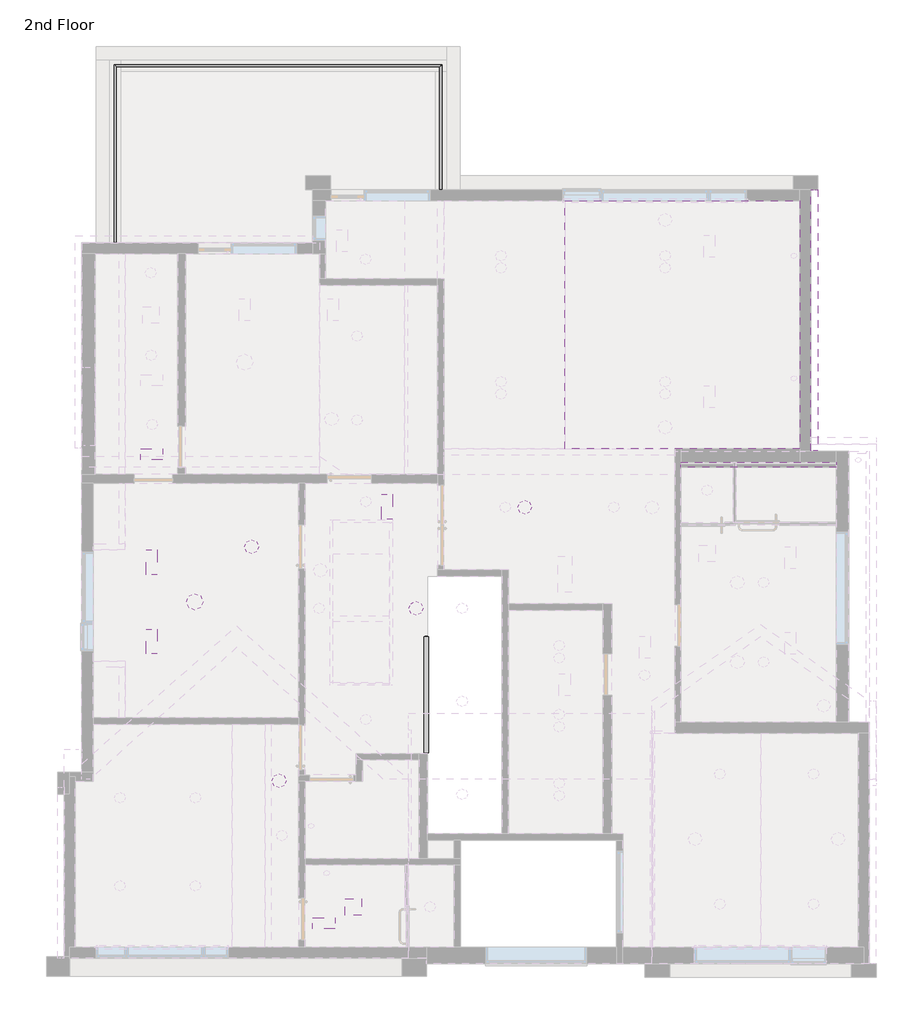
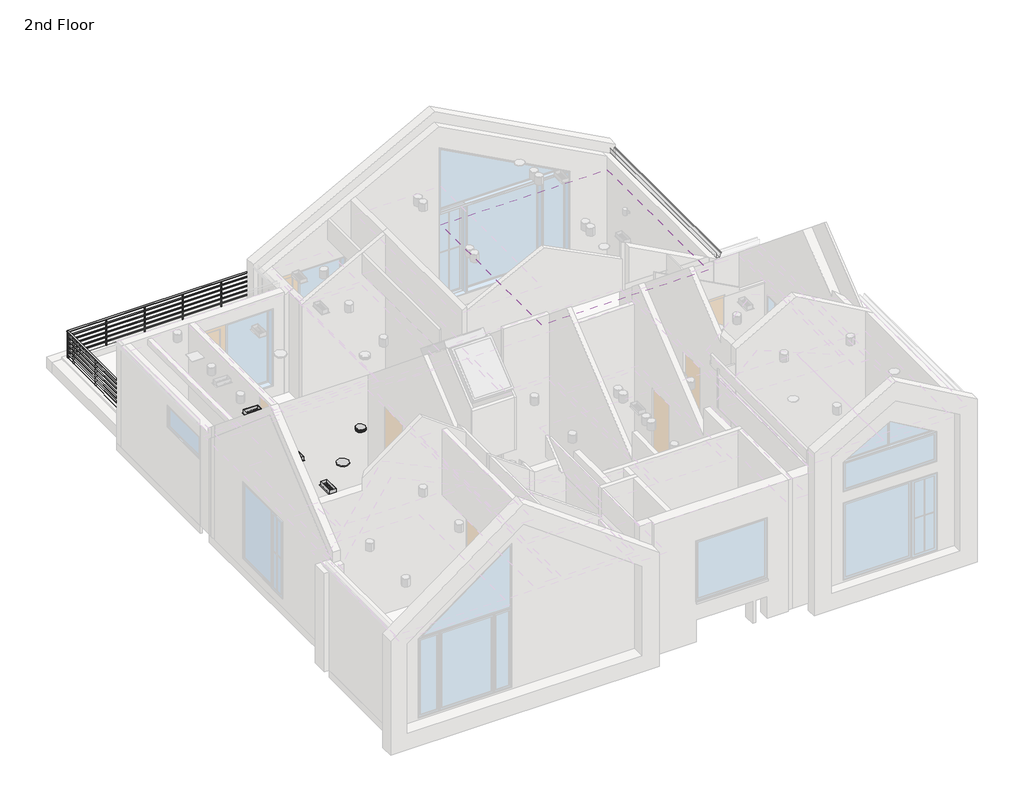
# One storey, part 5 of 6: 11 proxies, 2 railings, 1 covering, 1 pipe segment, 1 slab.
"""IFC4 building model written with IfcOpenShell, lengths in millimetres."""

from ifc_helpers import new_model, si_unit, point, frame, frame_2d, origin, place, context, project, spatial, polyline, circle_curve, ellipse_curve, trimmed, segment, composite_curve, outline, extrude, transform, mapped, element, save
from ifc_brep_helpers import plane_surface, cylinder_surface, revolved_surface, extruded_surface, advanced_brep
from components import air_vent_default_1_b1e9e62e, air_vent_default_1_932c76b0, air_vent_default_1_023386ce, air_vent_default_1_b5cdf8f8, proxy_8f18e016, default_1_231b9623, exhaust_fan_default_1_e91b617f

model = new_model("IFC4")

# Units and contexts
model_context = context("Model", 3, world=origin())
ifc_project = project(units=[si_unit("LENGTHUNIT", "METRE", prefix="MILLI")], contexts=[model_context])

# Site, building, storey
site = spatial("IfcSite", under=ifc_project)
building = spatial("IfcBuilding", under=site)
storey = spatial("IfcBuildingStorey", under=building, Name="2nd Floor", Elevation=3048.0)

# Proxies
placement = place(None, origin())
air_vent_default_1_shape = air_vent_default_1_b1e9e62e(model_context)
element("IfcBuildingElementProxy", 1, Name="Air Vent : Default 1", ObjectType="Air Vent : Default 1", at=placement, inside=storey, context=model_context, shape_type="MappedRepresentation", body=[
    mapped(air_vent_default_1_shape, transform((8811.5017773, 6609.0909405, 3352.8), x_axis=(0.0, 1.0, 0.0), y_axis=(-1.0, 0.0, 0.0), z_axis=(0.0, 0.0, 1.0))),
])
element("IfcBuildingElementProxy", 2, Name="Air Vent : Default 1", ObjectType="Air Vent : Default 1", at=placement, inside=storey, context=model_context, shape_type="MappedRepresentation", body=[
    mapped(air_vent_default_1_shape, transform((13154.9017773, 7631.4409405, 3352.8), x_axis=(0.0, 1.0, 0.0), y_axis=(-1.0, 0.0, 0.0), z_axis=(0.0, 0.0, 1.0))),
])
air_vent_default_1_2_shape = air_vent_default_1_932c76b0(model_context)
element("IfcBuildingElementProxy", 3, Name="Air Vent : Default 1", ObjectType="Air Vent : Default 1", at=placement, inside=storey, context=model_context, shape_type="MappedRepresentation", body=[
    mapped(air_vent_default_1_2_shape, transform((8811.5017773, 5148.5909405, 3352.8), x_axis=(0.0, -1.0, 0.0), y_axis=(1.0, 0.0, 0.0), z_axis=(0.0, 0.0, 1.0))),
])
air_vent_default_1_3_shape = air_vent_default_1_023386ce(model_context)
element("IfcBuildingElementProxy", 4, Name="Air Vent : Default 1", ObjectType="Air Vent : Default 1", at=placement, inside=storey, context=model_context, shape_type="MappedRepresentation", body=[
    mapped(air_vent_default_1_3_shape, transform((8817.8517773, 8596.6409405, 3352.8), x_axis=(1.0, 0.0, 0.0), y_axis=(0.0, 1.0, 0.0), z_axis=(0.0, 0.0, 1.0))),
])
air_vent_default_1_4_shape = air_vent_default_1_b5cdf8f8(model_context)
element("IfcBuildingElementProxy", 5, Name="Air Vent : Default 1", ObjectType="Air Vent : Default 1", at=placement, inside=storey, context=model_context, shape_type="MappedRepresentation", body=[
    mapped(air_vent_default_1_4_shape, transform((11992.6533398, -45.7090595, 3352.8), x_axis=(1.0, 0.0, 0.0), y_axis=(0.0, 1.0, 0.0), z_axis=(0.0, 0.0, 1.0))),
])
proxy_shape = proxy_8f18e016(model_context)
element("IfcBuildingElementProxy", 6, Name="Ceiling Mounted Light : 2'-0\"", ObjectType="Ceiling Mounted Light : 2'-0\"", at=placement, inside=storey, context=model_context, shape_type="MappedRepresentation", body=[
    mapped(proxy_shape, transform((9611.6017773, 5878.8409405, 3352.8), x_axis=(1.0, 0.0, 0.0), y_axis=(0.0, 1.0, 0.0), z_axis=(0.0, 0.0, 1.0))),
])
default_1_shape = default_1_231b9623(model_context)
element("IfcBuildingElementProxy", 7, Name="Smoke & Carbon Monoxide Detector : Default 1", ObjectType="Smoke & Carbon Monoxide Detector : Default 1", at=placement, inside=storey, context=model_context, shape_type="MappedRepresentation", body=[
    mapped(default_1_shape, transform((13694.6517773, 5758.1909405, 3352.8), x_axis=(1.0, 0.0, 0.0), y_axis=(0.0, 1.0, 0.0), z_axis=(0.0, 0.0, 1.0))),
])
element("IfcBuildingElementProxy", 8, Name="Smoke & Carbon Monoxide Detector : Default 1", ObjectType="Smoke & Carbon Monoxide Detector : Default 1", at=placement, inside=storey, context=model_context, shape_type="MappedRepresentation", body=[
    mapped(default_1_shape, transform((11167.3517773, 2576.8409405, 3352.8), x_axis=(1.0, 0.0, 0.0), y_axis=(0.0, 1.0, 0.0), z_axis=(0.0, 0.0, 1.0))),
])
element("IfcBuildingElementProxy", 9, Name="Smoke & Carbon Monoxide Detector : Default 1", ObjectType="Smoke & Carbon Monoxide Detector : Default 1", at=placement, inside=storey, context=model_context, shape_type="MappedRepresentation", body=[
    mapped(default_1_shape, transform((15701.2517773, 7625.0909405, 3352.8), x_axis=(1.0, 0.0, 0.0), y_axis=(0.0, 1.0, 0.0), z_axis=(0.0, 0.0, 1.0))),
])
element("IfcBuildingElementProxy", 10, Name="Smoke & Carbon Monoxide Detector : Default 1", ObjectType="Smoke & Carbon Monoxide Detector : Default 1", at=placement, inside=storey, context=model_context, shape_type="MappedRepresentation", body=[
    mapped(default_1_shape, transform((10659.3517773, 6894.8409405, 3352.8), x_axis=(1.0, 0.0, 0.0), y_axis=(0.0, 1.0, 0.0), z_axis=(0.0, 0.0, 1.0))),
])
exhaust_fan_default_1_shape = exhaust_fan_default_1_e91b617f(model_context)
element("IfcBuildingElementProxy", 11, Name="Exhaust Fan : Default 1", ObjectType="Exhaust Fan : Default 1", at=placement, inside=storey, context=model_context, shape_type="MappedRepresentation", body=[
    mapped(exhaust_fan_default_1_shape, transform((12538.9517773, 252.7409405, 3352.8), x_axis=(1.0, 0.0, 0.0), y_axis=(0.0, 1.0, 0.0), z_axis=(0.0, 0.0, 1.0))),
])

# Covering
element("IfcCovering", 12, ObjectType="1/2\" Ceiling", at=placement, inside=storey, context=model_context, shape_type="AdvancedBrep", body=[
    advanced_brep(
    [(16437.8517773, 13276.5909405, 7719.4168442), (16437.8517773, 8698.2409405, 7719.4168442), (20781.1549773, 8698.2409405, 5500.6611604), (20781.1549773, 13276.5909405, 5500.6611604), (18291.938198, 12347.8909405, 6772.2656566), (18291.938198, 12173.2909405, 6772.2656566), (18291.938198, 9801.5409405, 6772.2656566), (18291.938198, 9626.9409405, 6772.2656566), (19028.5447891, 12622.5409405, 6395.9736996), (19193.6447891, 12622.5409405, 6311.6331536), (19193.6447891, 12254.2409405, 6311.6331536), (19028.5447891, 12254.2409405, 6395.9736996), (19193.6447891, 9479.2909405, 6311.6331536), (19028.5447891, 9479.2909405, 6395.9736996), (19028.5447891, 9847.5909405, 6395.9736996), (19193.6447891, 9847.5909405, 6311.6331536), (18291.938198, 12125.6409405, 6772.2656566), (18291.938198, 11951.0409405, 6772.2656566), (18291.938198, 10023.7909405, 6772.2656566), (18291.938198, 9849.1909405, 6772.2656566), (16437.8517773, 8698.2409405, 7705.1556837), (16437.8517773, 13276.5909405, 7705.1556837), (20781.1549773, 13276.5909405, 5486.4), (20781.1549773, 8698.2409405, 5486.4), (18291.938198, 12173.2909405, 6758.0044961), (18291.938198, 12347.8909405, 6758.0044961), (18291.938198, 9626.9409405, 6758.0044961), (18291.938198, 9801.5409405, 6758.0044961), (19193.6447891, 12622.5409405, 6297.3719932), (19028.5447891, 12622.5409405, 6381.7125392), (19028.5447891, 12254.2409405, 6381.7125392), (19193.6447891, 12254.2409405, 6297.3719932), (19028.5447891, 9479.2909405, 6381.7125392), (19193.6447891, 9479.2909405, 6297.3719932), (19193.6447891, 9847.5909405, 6297.3719932), (19028.5447891, 9847.5909405, 6381.7125392), (18291.938198, 11951.0409405, 6758.0044961), (18291.938198, 12125.6409405, 6758.0044961), (18291.938198, 9849.1909405, 6758.0044961), (18291.938198, 10023.7909405, 6758.0044961)],
    [
        (0, 1),
        (1, 2),
        (2, 3),
        (3, 0),
        (4, 5, ellipse_curve(frame((18291.938198, 12260.5909405, 6772.2656566), z_axis=(-0.4549233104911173, 0.0, -0.8905306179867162), x_axis=(-0.8905306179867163, 0.0, 0.45492331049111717)), 98.0314413, 87.3)),
        (5, 4, ellipse_curve(frame((18291.938198, 12260.5909405, 6772.2656566), z_axis=(-0.4549233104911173, 0.0, -0.8905306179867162), x_axis=(-0.8905306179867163, 0.0, 0.45492331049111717)), 98.0314413, 87.3)),
        (6, 7, ellipse_curve(frame((18291.938198, 9714.2409405, 6772.2656566), z_axis=(-0.4549233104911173, 0.0, -0.8905306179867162), x_axis=(-0.8905306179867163, 0.0, 0.45492331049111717)), 98.0314413, 87.3)),
        (7, 6, ellipse_curve(frame((18291.938198, 9714.2409405, 6772.2656566), z_axis=(-0.4549233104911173, 0.0, -0.8905306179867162), x_axis=(-0.8905306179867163, 0.0, 0.45492331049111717)), 98.0314413, 87.3)),
        (8, 9),
        (9, 10),
        (10, 11),
        (11, 8),
        (12, 13),
        (13, 14),
        (14, 15),
        (15, 12),
        (16, 17, ellipse_curve(frame((18291.938198, 12038.3409405, 6772.2656566), z_axis=(-0.4549233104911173, 0.0, -0.8905306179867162), x_axis=(-0.8905306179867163, 0.0, 0.45492331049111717)), 98.0314413, 87.3)),
        (17, 16, ellipse_curve(frame((18291.938198, 12038.3409405, 6772.2656566), z_axis=(-0.4549233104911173, 0.0, -0.8905306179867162), x_axis=(-0.8905306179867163, 0.0, 0.45492331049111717)), 98.0314413, 87.3)),
        (18, 19, ellipse_curve(frame((18291.938198, 9936.4909405, 6772.2656566), z_axis=(-0.4549233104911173, 0.0, -0.8905306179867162), x_axis=(-0.8905306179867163, 0.0, 0.45492331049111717)), 98.0314413, 87.3)),
        (19, 18, ellipse_curve(frame((18291.938198, 9936.4909405, 6772.2656566), z_axis=(-0.4549233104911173, 0.0, -0.8905306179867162), x_axis=(-0.8905306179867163, 0.0, 0.45492331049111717)), 98.0314413, 87.3)),
        (20, 21),
        (21, 22),
        (22, 23),
        (23, 20),
        (24, 25, ellipse_curve(frame((18291.938198, 12260.5909405, 6758.0044961), z_axis=(0.4549233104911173, 0.0, 0.8905306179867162), x_axis=(-0.8905306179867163, 0.0, 0.45492331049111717)), 98.0314413, 87.3)),
        (25, 24, ellipse_curve(frame((18291.938198, 12260.5909405, 6758.0044961), z_axis=(0.4549233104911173, 0.0, 0.8905306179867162), x_axis=(-0.8905306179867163, 0.0, 0.45492331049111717)), 98.0314413, 87.3)),
        (26, 27, ellipse_curve(frame((18291.938198, 9714.2409405, 6758.0044961), z_axis=(0.4549233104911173, 0.0, 0.8905306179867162), x_axis=(-0.8905306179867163, 0.0, 0.45492331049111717)), 98.0314413, 87.3)),
        (27, 26, ellipse_curve(frame((18291.938198, 9714.2409405, 6758.0044961), z_axis=(0.4549233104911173, 0.0, 0.8905306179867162), x_axis=(-0.8905306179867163, 0.0, 0.45492331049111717)), 98.0314413, 87.3)),
        (28, 29),
        (29, 30),
        (30, 31),
        (31, 28),
        (32, 33),
        (33, 34),
        (34, 35),
        (35, 32),
        (36, 37, ellipse_curve(frame((18291.938198, 12038.3409405, 6758.0044961), z_axis=(0.4549233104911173, 0.0, 0.8905306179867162), x_axis=(-0.8905306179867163, 0.0, 0.45492331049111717)), 98.0314413, 87.3)),
        (37, 36, ellipse_curve(frame((18291.938198, 12038.3409405, 6758.0044961), z_axis=(0.4549233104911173, 0.0, 0.8905306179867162), x_axis=(-0.8905306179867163, 0.0, 0.45492331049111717)), 98.0314413, 87.3)),
        (38, 39, ellipse_curve(frame((18291.938198, 9936.4909405, 6758.0044961), z_axis=(0.4549233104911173, 0.0, 0.8905306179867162), x_axis=(-0.8905306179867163, 0.0, 0.45492331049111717)), 98.0314413, 87.3)),
        (39, 38, ellipse_curve(frame((18291.938198, 9936.4909405, 6758.0044961), z_axis=(0.4549233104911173, 0.0, 0.8905306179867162), x_axis=(-0.8905306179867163, 0.0, 0.45492331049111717)), 98.0314413, 87.3)),
        (0, 21),
        (20, 1),
        (23, 2),
        (22, 3),
        (4, 25),
        (24, 5),
        (26, 7),
        (6, 27),
        (8, 29),
        (28, 9),
        (31, 10),
        (30, 11),
        (32, 13),
        (12, 33),
        (15, 34),
        (14, 35),
        (16, 37),
        (36, 17),
        (38, 19),
        (18, 39),
    ],
    [
        plane_surface(frame((20781.1549773, 8698.2409405, 5500.6611604), z_axis=(0.4549233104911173, 0.0, 0.8905306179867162), x_axis=(-0.8905306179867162, 0.0, 0.4549233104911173))),
        plane_surface(frame((20781.1549773, 8698.2409405, 5486.4), z_axis=(-0.4549233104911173, 0.0, -0.8905306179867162), x_axis=(0.8905306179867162, 0.0, -0.4549233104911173))),
        plane_surface(frame((16437.8517773, 13276.5909405, 7719.4168442), z_axis=(-1.0, 0.0, 0.0), x_axis=(0.0, 0.0, -1.0))),
        plane_surface(frame((16437.8517773, 8698.2409405, 7719.4168442), z_axis=(0.0, -1.0, 0.0), x_axis=(0.0, 0.0, -1.0))),
        plane_surface(frame((20781.1549773, 8698.2409405, 5500.6611604), z_axis=(1.0, 0.0, 0.0), x_axis=(0.0, 0.0, -1.0))),
        plane_surface(frame((20781.1549773, 13276.5909405, 5500.6611604), z_axis=(0.0, 1.0, 0.0), x_axis=(0.0, 0.0, -1.0))),
        revolved_surface(polyline([(18291.938198, 12347.8909405, 6816.862444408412), (18291.938198, 12347.8909405, 6713.407708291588)]), (18291.938198, 12260.5909405, 6707.2044961), (0.0, 0.0, 1.0)),
        revolved_surface(polyline([(18291.938198, 9626.9409405, 6816.862444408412), (18291.938198, 9626.9409405, 6713.407708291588)]), (18291.938198, 9714.2409405, 6707.2044961), (0.0, 0.0, 1.0)),
        plane_surface(frame((19028.5447891, 12622.5409405, 6395.9736996), z_axis=(0.0, -1.0, 0.0), x_axis=(0.0, 0.0, -1.0))),
        plane_surface(frame((19193.6447891, 12622.5409405, 6311.6331536), z_axis=(-1.0, 0.0, 0.0), x_axis=(0.0, 0.0, -1.0))),
        plane_surface(frame((19193.6447891, 12254.2409405, 6311.6331536), z_axis=(0.0, 1.0, 0.0), x_axis=(0.0, 0.0, -1.0))),
        plane_surface(frame((19028.5447891, 12254.2409405, 6395.9736996), z_axis=(1.0, 0.0, 0.0), x_axis=(0.0, 0.0, -1.0))),
        plane_surface(frame((19028.5447891, 9479.2909405, 6381.7125392), z_axis=(0.0, 1.0, 0.0), x_axis=(0.0, 0.0, 1.0))),
        plane_surface(frame((19193.6447891, 9479.2909405, 6297.3719932), z_axis=(-1.0, 0.0, 0.0), x_axis=(0.0, 0.0, 1.0))),
        plane_surface(frame((19193.6447891, 9847.5909405, 6297.3719932), z_axis=(0.0, -1.0, 0.0), x_axis=(0.0, 0.0, 1.0))),
        plane_surface(frame((19028.5447891, 9847.5909405, 6381.7125392), z_axis=(1.0, 0.0, 0.0), x_axis=(0.0, 0.0, 1.0))),
        revolved_surface(polyline([(18291.938198, 12125.6409405, 6816.862444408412), (18291.938198, 12125.6409405, 6713.407708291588)]), (18291.938198, 12038.3409405, 6707.2044961), (0.0, 0.0, 1.0)),
        revolved_surface(polyline([(18291.938198, 9849.1909405, 6816.862444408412), (18291.938198, 9849.1909405, 6713.407708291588)]), (18291.938198, 9936.4909405, 6707.2044961), (0.0, 0.0, 1.0)),
    ],
    [
        (0, [[1, 2, 3, 4], [5, 6], [7, 8], [9, 10, 11, 12], [13, 14, 15, 16], [17, 18], [19, 20]]),
        (1, [[21, 22, 23, 24], [25, 26], [27, 28], [29, 30, 31, 32], [33, 34, 35, 36], [37, 38], [39, 40]]),
        (2, [[-1, 41, -21, 42]]),
        (3, [[-2, -42, -24, 43]]),
        (4, [[-3, -43, -23, 44]]),
        (5, [[-4, -44, -22, -41]]),
        (6, [[45, -25, 46, -5]]),
        (6, [[-45, -6, -46, -26]]),
        (7, [[47, -7, 48, -27]]),
        (7, [[-47, -28, -48, -8]]),
        (8, [[-9, 49, -29, 50]]),
        (9, [[-10, -50, -32, 51]]),
        (10, [[-11, -51, -31, 52]]),
        (11, [[-12, -52, -30, -49]]),
        (12, [[-33, 53, -13, 54]]),
        (13, [[-34, -54, -16, 55]]),
        (14, [[-35, -55, -15, 56]]),
        (15, [[-36, -56, -14, -53]]),
        (16, [[57, -37, 58, -17]]),
        (16, [[-57, -18, -58, -38]]),
        (17, [[59, -19, 60, -39]]),
        (17, [[-59, -40, -60, -20]]),
    ],
),
])

# Pipe segment
element("IfcPipeSegment", 13, ObjectType="Gutter", at=placement, inside=storey, context=model_context, shape_type="SweptSolid", body=[
    extrude(outline(polyline([(5761.9089139, 20984.3549773), (5761.9089139, 21058.5549773), (5861.4211465, 21096.6549773), (5861.4211465, 21109.3549773), (5874.1211465, 21109.3549773), (5874.1211465, 21096.6549773), (5870.9461465, 21096.6549773), (5870.9461465, 21106.1799773), (5864.5961465, 21106.1799773), (5864.5961465, 21094.29268), (5765.0839139, 21056.19268), (5765.0839139, 20987.5299773), (5886.8211465, 20987.5299773), (5886.8211465, 20984.3549773), (5761.9089139, 20984.3549773)])), frame((0.0, 8661.8337321, 0.0), z_axis=(0.0, 1.0, 0.0), x_axis=(0.0, 0.0, 1.0)), (0.0, 0.0, 1.0), 4817.9572084),
])

# Railings
element("IfcRailing", 14, ObjectType="900mm Pipe", at=placement, inside=storey, context=model_context, shape_type="SolidModel", body=[
    advanced_brep(
    [(8164.6549773, 12501.8909405, 3928.0), (8124.6549773, 12501.8909405, 3928.0), (8164.6549773, 15745.7909405, 3928.0), (8124.6549773, 15785.7909405, 3928.0), (14131.7549773, 15745.7909405, 3928.0), (14171.7549773, 15785.7909405, 3928.0), (14131.7549773, 13479.7909405, 3928.0), (14171.7549773, 13479.7909405, 3928.0)],
    [
        (0, 1, circle_curve(frame((8144.6549773, 12501.8909405, 3928.0), z_axis=(0.0, -1.0, 0.0), x_axis=(-1.0, 0.0, 0.0)), 20.0)),
        (1, 0, circle_curve(frame((8144.6549773, 12501.8909405, 3928.0), z_axis=(0.0, -1.0, 0.0), x_axis=(-1.0, 0.0, 0.0)), 20.0)),
        (0, 2),
        (2, 3, ellipse_curve(frame((8144.6549773, 15765.7909405, 3928.0), z_axis=(-0.7071067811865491, -0.7071067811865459, 0.0), x_axis=(0.7071067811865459, -0.707106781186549, 0.0)), 28.2842712, 20.0)),
        (3, 1),
        (3, 2, ellipse_curve(frame((8144.6549773, 15765.7909405, 3928.0), z_axis=(-0.7071067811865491, -0.7071067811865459, 0.0), x_axis=(0.7071067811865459, -0.707106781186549, 0.0)), 28.2842712, 20.0)),
        (2, 4),
        (4, 5, ellipse_curve(frame((14151.7549773, 15765.7909405, 3928.0), z_axis=(-0.7071067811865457, 0.7071067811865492, 0.0), x_axis=(-0.7071067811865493, -0.7071067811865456, 0.0)), 28.2842712, 20.0)),
        (5, 3),
        (5, 4, ellipse_curve(frame((14151.7549773, 15765.7909405, 3928.0), z_axis=(-0.7071067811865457, 0.7071067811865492, 0.0), x_axis=(-0.7071067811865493, -0.7071067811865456, 0.0)), 28.2842712, 20.0)),
        (6, 7, circle_curve(frame((14151.7549773, 13479.7909405, 3928.0), z_axis=(0.0, -1.0, 0.0), x_axis=(1.0, 0.0, 0.0)), 20.0)),
        (7, 6, circle_curve(frame((14151.7549773, 13479.7909405, 3928.0), z_axis=(0.0, -1.0, 0.0), x_axis=(1.0, 0.0, 0.0)), 20.0)),
        (4, 6),
        (7, 5),
    ],
    [
        plane_surface(frame((8144.6549773, 12501.8909405, 3948.0), z_axis=(0.0, -1.0, 0.0), x_axis=(0.0, 0.0, 1.0))),
        cylinder_surface(frame((8144.6549773, 12501.8909405, 3928.0), z_axis=(0.0, -1.0, 0.0), x_axis=(-1.0, 0.0, 0.0)), 20.0),
        cylinder_surface(frame((8144.6549773, 15765.7909405, 3928.0), z_axis=(-1.0, 0.0, 0.0), x_axis=(0.0, 1.0, 0.0)), 20.0),
        plane_surface(frame((14151.7549773, 13479.7909405, 3948.0), z_axis=(0.0, -1.0, 0.0), x_axis=(0.0, 0.0, -1.0))),
        cylinder_surface(frame((14151.7549773, 15765.7909405, 3928.0), z_axis=(0.0, 1.0, 0.0), x_axis=(1.0, 0.0, 0.0)), 20.0),
    ],
    [
        (0, [[1, 2]]),
        (1, [[-1, 3, 4, 5]]),
        (1, [[-2, -5, 6, -3]]),
        (2, [[-4, 7, 8, 9]]),
        (2, [[-6, -9, 10, -7]]),
        (3, [[11, 12]]),
        (4, [[-8, 13, -12, 14]]),
        (4, [[-10, -14, -11, -13]]),
    ],
),
    advanced_brep(
    [(8129.6549773, 12501.8909405, 3808.0), (8159.6549773, 12501.8909405, 3808.0), (8129.6549773, 15780.7909405, 3808.0), (8159.6549773, 15750.7909405, 3808.0), (14166.7549773, 15780.7909405, 3808.0), (14136.7549773, 15750.7909405, 3808.0), (14166.7549773, 13479.7909405, 3808.0), (14136.7549773, 13479.7909405, 3808.0)],
    [
        (0, 1, circle_curve(frame((8144.6549773, 12501.8909405, 3808.0), z_axis=(0.0, -1.0, 0.0), x_axis=(1.0, 0.0, 0.0)), 15.0)),
        (1, 0, circle_curve(frame((8144.6549773, 12501.8909405, 3808.0), z_axis=(0.0, -1.0, 0.0), x_axis=(1.0, 0.0, 0.0)), 15.0)),
        (0, 2),
        (2, 3, ellipse_curve(frame((8144.6549773, 15765.7909405, 3808.0), z_axis=(-0.7071067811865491, -0.7071067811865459, 0.0), x_axis=(0.7071067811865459, -0.707106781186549, 0.0)), 21.2132034, 15.0)),
        (3, 1),
        (3, 2, ellipse_curve(frame((8144.6549773, 15765.7909405, 3808.0), z_axis=(-0.7071067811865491, -0.7071067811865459, 0.0), x_axis=(0.7071067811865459, -0.707106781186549, 0.0)), 21.2132034, 15.0)),
        (2, 4),
        (4, 5, ellipse_curve(frame((14151.7549773, 15765.7909405, 3808.0), z_axis=(-0.7071067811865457, 0.7071067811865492, 0.0), x_axis=(-0.7071067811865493, -0.7071067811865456, 0.0)), 21.2132034, 15.0)),
        (5, 3),
        (5, 4, ellipse_curve(frame((14151.7549773, 15765.7909405, 3808.0), z_axis=(-0.7071067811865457, 0.7071067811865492, 0.0), x_axis=(-0.7071067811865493, -0.7071067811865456, 0.0)), 21.2132034, 15.0)),
        (6, 7, circle_curve(frame((14151.7549773, 13479.7909405, 3808.0), z_axis=(0.0, -1.0, 0.0), x_axis=(-1.0, 0.0, 0.0)), 15.0)),
        (7, 6, circle_curve(frame((14151.7549773, 13479.7909405, 3808.0), z_axis=(0.0, -1.0, 0.0), x_axis=(-1.0, 0.0, 0.0)), 15.0)),
        (4, 6),
        (7, 5),
    ],
    [
        plane_surface(frame((8144.6549773, 12501.8909405, 3823.0), z_axis=(0.0, -1.0, 0.0), x_axis=(0.0, 0.0, 1.0))),
        cylinder_surface(frame((8144.6549773, 12501.8909405, 3808.0), z_axis=(0.0, -1.0, 0.0), x_axis=(1.0, 0.0, 0.0)), 15.0),
        cylinder_surface(frame((8144.6549773, 15765.7909405, 3808.0), z_axis=(-1.0, 0.0, 0.0), x_axis=(0.0, -1.0, 0.0)), 15.0),
        plane_surface(frame((14151.7549773, 13479.7909405, 3823.0), z_axis=(0.0, -1.0, 0.0), x_axis=(0.0, 0.0, -1.0))),
        cylinder_surface(frame((14151.7549773, 15765.7909405, 3808.0), z_axis=(0.0, 1.0, 0.0), x_axis=(-1.0, 0.0, 0.0)), 15.0),
    ],
    [
        (0, [[1, 2]]),
        (1, [[-1, 3, 4, 5]]),
        (1, [[-2, -5, 6, -3]]),
        (2, [[-4, 7, 8, 9]]),
        (2, [[-6, -9, 10, -7]]),
        (3, [[11, 12]]),
        (4, [[-8, 13, -12, 14]]),
        (4, [[-10, -14, -11, -13]]),
    ],
),
    advanced_brep(
    [(8129.6549773, 12501.8909405, 3683.0), (8159.6549773, 12501.8909405, 3683.0), (8129.6549773, 15780.7909405, 3683.0), (8159.6549773, 15750.7909405, 3683.0), (14166.7549773, 15780.7909405, 3683.0), (14136.7549773, 15750.7909405, 3683.0), (14166.7549773, 13479.7909405, 3683.0), (14136.7549773, 13479.7909405, 3683.0)],
    [
        (0, 1, circle_curve(frame((8144.6549773, 12501.8909405, 3683.0), z_axis=(0.0, -1.0, 0.0), x_axis=(1.0, 0.0, 0.0)), 15.0)),
        (1, 0, circle_curve(frame((8144.6549773, 12501.8909405, 3683.0), z_axis=(0.0, -1.0, 0.0), x_axis=(1.0, 0.0, 0.0)), 15.0)),
        (0, 2),
        (2, 3, ellipse_curve(frame((8144.6549773, 15765.7909405, 3683.0), z_axis=(-0.7071067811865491, -0.7071067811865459, 0.0), x_axis=(0.7071067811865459, -0.707106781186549, 0.0)), 21.2132034, 15.0)),
        (3, 1),
        (3, 2, ellipse_curve(frame((8144.6549773, 15765.7909405, 3683.0), z_axis=(-0.7071067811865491, -0.7071067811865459, 0.0), x_axis=(0.7071067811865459, -0.707106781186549, 0.0)), 21.2132034, 15.0)),
        (2, 4),
        (4, 5, ellipse_curve(frame((14151.7549773, 15765.7909405, 3683.0), z_axis=(-0.7071067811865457, 0.7071067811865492, 0.0), x_axis=(-0.7071067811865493, -0.7071067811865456, 0.0)), 21.2132034, 15.0)),
        (5, 3),
        (5, 4, ellipse_curve(frame((14151.7549773, 15765.7909405, 3683.0), z_axis=(-0.7071067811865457, 0.7071067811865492, 0.0), x_axis=(-0.7071067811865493, -0.7071067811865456, 0.0)), 21.2132034, 15.0)),
        (6, 7, circle_curve(frame((14151.7549773, 13479.7909405, 3683.0), z_axis=(0.0, -1.0, 0.0), x_axis=(-1.0, 0.0, 0.0)), 15.0)),
        (7, 6, circle_curve(frame((14151.7549773, 13479.7909405, 3683.0), z_axis=(0.0, -1.0, 0.0), x_axis=(-1.0, 0.0, 0.0)), 15.0)),
        (4, 6),
        (7, 5),
    ],
    [
        plane_surface(frame((8144.6549773, 12501.8909405, 3698.0), z_axis=(0.0, -1.0, 0.0), x_axis=(0.0, 0.0, 1.0))),
        cylinder_surface(frame((8144.6549773, 12501.8909405, 3683.0), z_axis=(0.0, -1.0, 0.0), x_axis=(1.0, 0.0, 0.0)), 15.0),
        cylinder_surface(frame((8144.6549773, 15765.7909405, 3683.0), z_axis=(-1.0, 0.0, 0.0), x_axis=(0.0, -1.0, 0.0)), 15.0),
        plane_surface(frame((14151.7549773, 13479.7909405, 3698.0), z_axis=(0.0, -1.0, 0.0), x_axis=(0.0, 0.0, -1.0))),
        cylinder_surface(frame((14151.7549773, 15765.7909405, 3683.0), z_axis=(0.0, 1.0, 0.0), x_axis=(-1.0, 0.0, 0.0)), 15.0),
    ],
    [
        (0, [[1, 2]]),
        (1, [[-1, 3, 4, 5]]),
        (1, [[-2, -5, 6, -3]]),
        (2, [[-4, 7, 8, 9]]),
        (2, [[-6, -9, 10, -7]]),
        (3, [[11, 12]]),
        (4, [[-8, 13, -12, 14]]),
        (4, [[-10, -14, -11, -13]]),
    ],
),
    advanced_brep(
    [(8129.6549773, 12501.8909405, 3558.0), (8159.6549773, 12501.8909405, 3558.0), (8129.6549773, 15780.7909405, 3558.0), (8159.6549773, 15750.7909405, 3558.0), (14166.7549773, 15780.7909405, 3558.0), (14136.7549773, 15750.7909405, 3558.0), (14166.7549773, 13479.7909405, 3558.0), (14136.7549773, 13479.7909405, 3558.0)],
    [
        (0, 1, circle_curve(frame((8144.6549773, 12501.8909405, 3558.0), z_axis=(0.0, -1.0, 0.0), x_axis=(1.0, 0.0, 0.0)), 15.0)),
        (1, 0, circle_curve(frame((8144.6549773, 12501.8909405, 3558.0), z_axis=(0.0, -1.0, 0.0), x_axis=(1.0, 0.0, 0.0)), 15.0)),
        (0, 2),
        (2, 3, ellipse_curve(frame((8144.6549773, 15765.7909405, 3558.0), z_axis=(-0.7071067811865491, -0.7071067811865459, 0.0), x_axis=(0.7071067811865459, -0.707106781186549, 0.0)), 21.2132034, 15.0)),
        (3, 1),
        (3, 2, ellipse_curve(frame((8144.6549773, 15765.7909405, 3558.0), z_axis=(-0.7071067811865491, -0.7071067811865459, 0.0), x_axis=(0.7071067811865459, -0.707106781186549, 0.0)), 21.2132034, 15.0)),
        (2, 4),
        (4, 5, ellipse_curve(frame((14151.7549773, 15765.7909405, 3558.0), z_axis=(-0.7071067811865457, 0.7071067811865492, 0.0), x_axis=(-0.7071067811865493, -0.7071067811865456, 0.0)), 21.2132034, 15.0)),
        (5, 3),
        (5, 4, ellipse_curve(frame((14151.7549773, 15765.7909405, 3558.0), z_axis=(-0.7071067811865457, 0.7071067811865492, 0.0), x_axis=(-0.7071067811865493, -0.7071067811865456, 0.0)), 21.2132034, 15.0)),
        (6, 7, circle_curve(frame((14151.7549773, 13479.7909405, 3558.0), z_axis=(0.0, -1.0, 0.0), x_axis=(-1.0, 0.0, 0.0)), 15.0)),
        (7, 6, circle_curve(frame((14151.7549773, 13479.7909405, 3558.0), z_axis=(0.0, -1.0, 0.0), x_axis=(-1.0, 0.0, 0.0)), 15.0)),
        (4, 6),
        (7, 5),
    ],
    [
        plane_surface(frame((8144.6549773, 12501.8909405, 3573.0), z_axis=(0.0, -1.0, 0.0), x_axis=(0.0, 0.0, 1.0))),
        cylinder_surface(frame((8144.6549773, 12501.8909405, 3558.0), z_axis=(0.0, -1.0, 0.0), x_axis=(1.0, 0.0, 0.0)), 15.0),
        cylinder_surface(frame((8144.6549773, 15765.7909405, 3558.0), z_axis=(-1.0, 0.0, 0.0), x_axis=(0.0, -1.0, 0.0)), 15.0),
        plane_surface(frame((14151.7549773, 13479.7909405, 3573.0), z_axis=(0.0, -1.0, 0.0), x_axis=(0.0, 0.0, -1.0))),
        cylinder_surface(frame((14151.7549773, 15765.7909405, 3558.0), z_axis=(0.0, 1.0, 0.0), x_axis=(-1.0, 0.0, 0.0)), 15.0),
    ],
    [
        (0, [[1, 2]]),
        (1, [[-1, 3, 4, 5]]),
        (1, [[-2, -5, 6, -3]]),
        (2, [[-4, 7, 8, 9]]),
        (2, [[-6, -9, 10, -7]]),
        (3, [[11, 12]]),
        (4, [[-8, 13, -12, 14]]),
        (4, [[-10, -14, -11, -13]]),
    ],
),
    advanced_brep(
    [(8129.6549773, 12501.8909405, 3433.0), (8159.6549773, 12501.8909405, 3433.0), (8129.6549773, 15780.7909405, 3433.0), (8159.6549773, 15750.7909405, 3433.0), (14166.7549773, 15780.7909405, 3433.0), (14136.7549773, 15750.7909405, 3433.0), (14166.7549773, 13479.7909405, 3433.0), (14136.7549773, 13479.7909405, 3433.0)],
    [
        (0, 1, circle_curve(frame((8144.6549773, 12501.8909405, 3433.0), z_axis=(0.0, -1.0, 0.0), x_axis=(1.0, 0.0, 0.0)), 15.0)),
        (1, 0, circle_curve(frame((8144.6549773, 12501.8909405, 3433.0), z_axis=(0.0, -1.0, 0.0), x_axis=(1.0, 0.0, 0.0)), 15.0)),
        (0, 2),
        (2, 3, ellipse_curve(frame((8144.6549773, 15765.7909405, 3433.0), z_axis=(-0.7071067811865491, -0.7071067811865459, 0.0), x_axis=(0.7071067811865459, -0.707106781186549, 0.0)), 21.2132034, 15.0)),
        (3, 1),
        (3, 2, ellipse_curve(frame((8144.6549773, 15765.7909405, 3433.0), z_axis=(-0.7071067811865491, -0.7071067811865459, 0.0), x_axis=(0.7071067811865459, -0.707106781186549, 0.0)), 21.2132034, 15.0)),
        (2, 4),
        (4, 5, ellipse_curve(frame((14151.7549773, 15765.7909405, 3433.0), z_axis=(-0.7071067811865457, 0.7071067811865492, 0.0), x_axis=(-0.7071067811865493, -0.7071067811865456, 0.0)), 21.2132034, 15.0)),
        (5, 3),
        (5, 4, ellipse_curve(frame((14151.7549773, 15765.7909405, 3433.0), z_axis=(-0.7071067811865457, 0.7071067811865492, 0.0), x_axis=(-0.7071067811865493, -0.7071067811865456, 0.0)), 21.2132034, 15.0)),
        (6, 7, circle_curve(frame((14151.7549773, 13479.7909405, 3433.0), z_axis=(0.0, -1.0, 0.0), x_axis=(-1.0, 0.0, 0.0)), 15.0)),
        (7, 6, circle_curve(frame((14151.7549773, 13479.7909405, 3433.0), z_axis=(0.0, -1.0, 0.0), x_axis=(-1.0, 0.0, 0.0)), 15.0)),
        (4, 6),
        (7, 5),
    ],
    [
        plane_surface(frame((8144.6549773, 12501.8909405, 3448.0), z_axis=(0.0, -1.0, 0.0), x_axis=(0.0, 0.0, 1.0))),
        cylinder_surface(frame((8144.6549773, 12501.8909405, 3433.0), z_axis=(0.0, -1.0, 0.0), x_axis=(1.0, 0.0, 0.0)), 15.0),
        cylinder_surface(frame((8144.6549773, 15765.7909405, 3433.0), z_axis=(-1.0, 0.0, 0.0), x_axis=(0.0, -1.0, 0.0)), 15.0),
        plane_surface(frame((14151.7549773, 13479.7909405, 3448.0), z_axis=(0.0, -1.0, 0.0), x_axis=(0.0, 0.0, -1.0))),
        cylinder_surface(frame((14151.7549773, 15765.7909405, 3433.0), z_axis=(0.0, 1.0, 0.0), x_axis=(-1.0, 0.0, 0.0)), 15.0),
    ],
    [
        (0, [[1, 2]]),
        (1, [[-1, 3, 4, 5]]),
        (1, [[-2, -5, 6, -3]]),
        (2, [[-4, 7, 8, 9]]),
        (2, [[-6, -9, 10, -7]]),
        (3, [[11, 12]]),
        (4, [[-8, 13, -12, 14]]),
        (4, [[-10, -14, -11, -13]]),
    ],
),
    advanced_brep(
    [(8129.6549773, 12501.8909405, 3308.0), (8159.6549773, 12501.8909405, 3308.0), (8129.6549773, 15780.7909405, 3308.0), (8159.6549773, 15750.7909405, 3308.0), (14166.7549773, 15780.7909405, 3308.0), (14136.7549773, 15750.7909405, 3308.0), (14166.7549773, 13479.7909405, 3308.0), (14136.7549773, 13479.7909405, 3308.0)],
    [
        (0, 1, circle_curve(frame((8144.6549773, 12501.8909405, 3308.0), z_axis=(0.0, -1.0, 0.0), x_axis=(1.0, 0.0, 0.0)), 15.0)),
        (1, 0, circle_curve(frame((8144.6549773, 12501.8909405, 3308.0), z_axis=(0.0, -1.0, 0.0), x_axis=(1.0, 0.0, 0.0)), 15.0)),
        (0, 2),
        (2, 3, ellipse_curve(frame((8144.6549773, 15765.7909405, 3308.0), z_axis=(-0.7071067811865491, -0.7071067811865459, 0.0), x_axis=(0.7071067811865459, -0.707106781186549, 0.0)), 21.2132034, 15.0)),
        (3, 1),
        (3, 2, ellipse_curve(frame((8144.6549773, 15765.7909405, 3308.0), z_axis=(-0.7071067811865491, -0.7071067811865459, 0.0), x_axis=(0.7071067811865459, -0.707106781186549, 0.0)), 21.2132034, 15.0)),
        (2, 4),
        (4, 5, ellipse_curve(frame((14151.7549773, 15765.7909405, 3308.0), z_axis=(-0.7071067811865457, 0.7071067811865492, 0.0), x_axis=(-0.7071067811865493, -0.7071067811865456, 0.0)), 21.2132034, 15.0)),
        (5, 3),
        (5, 4, ellipse_curve(frame((14151.7549773, 15765.7909405, 3308.0), z_axis=(-0.7071067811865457, 0.7071067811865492, 0.0), x_axis=(-0.7071067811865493, -0.7071067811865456, 0.0)), 21.2132034, 15.0)),
        (6, 7, circle_curve(frame((14151.7549773, 13479.7909405, 3308.0), z_axis=(0.0, -1.0, 0.0), x_axis=(-1.0, 0.0, 0.0)), 15.0)),
        (7, 6, circle_curve(frame((14151.7549773, 13479.7909405, 3308.0), z_axis=(0.0, -1.0, 0.0), x_axis=(-1.0, 0.0, 0.0)), 15.0)),
        (4, 6),
        (7, 5),
    ],
    [
        plane_surface(frame((8144.6549773, 12501.8909405, 3323.0), z_axis=(0.0, -1.0, 0.0), x_axis=(0.0, 0.0, 1.0))),
        cylinder_surface(frame((8144.6549773, 12501.8909405, 3308.0), z_axis=(0.0, -1.0, 0.0), x_axis=(1.0, 0.0, 0.0)), 15.0),
        cylinder_surface(frame((8144.6549773, 15765.7909405, 3308.0), z_axis=(-1.0, 0.0, 0.0), x_axis=(0.0, -1.0, 0.0)), 15.0),
        plane_surface(frame((14151.7549773, 13479.7909405, 3323.0), z_axis=(0.0, -1.0, 0.0), x_axis=(0.0, 0.0, -1.0))),
        cylinder_surface(frame((14151.7549773, 15765.7909405, 3308.0), z_axis=(0.0, 1.0, 0.0), x_axis=(-1.0, 0.0, 0.0)), 15.0),
    ],
    [
        (0, [[1, 2]]),
        (1, [[-1, 3, 4, 5]]),
        (1, [[-2, -5, 6, -3]]),
        (2, [[-4, 7, 8, 9]]),
        (2, [[-6, -9, 10, -7]]),
        (3, [[11, 12]]),
        (4, [[-8, 13, -12, 14]]),
        (4, [[-10, -14, -11, -13]]),
    ],
),
    advanced_brep(
    [(8129.6549773, 12501.8909405, 3183.0), (8159.6549773, 12501.8909405, 3183.0), (8129.6549773, 15780.7909405, 3183.0), (8159.6549773, 15750.7909405, 3183.0), (14166.7549773, 15780.7909405, 3183.0), (14136.7549773, 15750.7909405, 3183.0), (14166.7549773, 13479.7909405, 3183.0), (14136.7549773, 13479.7909405, 3183.0)],
    [
        (0, 1, circle_curve(frame((8144.6549773, 12501.8909405, 3183.0), z_axis=(0.0, -1.0, 0.0), x_axis=(1.0, 0.0, 0.0)), 15.0)),
        (1, 0, circle_curve(frame((8144.6549773, 12501.8909405, 3183.0), z_axis=(0.0, -1.0, 0.0), x_axis=(1.0, 0.0, 0.0)), 15.0)),
        (0, 2),
        (2, 3, ellipse_curve(frame((8144.6549773, 15765.7909405, 3183.0), z_axis=(-0.7071067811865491, -0.7071067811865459, 0.0), x_axis=(0.7071067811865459, -0.707106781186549, 0.0)), 21.2132034, 15.0)),
        (3, 1),
        (3, 2, ellipse_curve(frame((8144.6549773, 15765.7909405, 3183.0), z_axis=(-0.7071067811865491, -0.7071067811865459, 0.0), x_axis=(0.7071067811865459, -0.707106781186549, 0.0)), 21.2132034, 15.0)),
        (2, 4),
        (4, 5, ellipse_curve(frame((14151.7549773, 15765.7909405, 3183.0), z_axis=(-0.7071067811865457, 0.7071067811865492, 0.0), x_axis=(-0.7071067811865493, -0.7071067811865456, 0.0)), 21.2132034, 15.0)),
        (5, 3),
        (5, 4, ellipse_curve(frame((14151.7549773, 15765.7909405, 3183.0), z_axis=(-0.7071067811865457, 0.7071067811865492, 0.0), x_axis=(-0.7071067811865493, -0.7071067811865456, 0.0)), 21.2132034, 15.0)),
        (6, 7, circle_curve(frame((14151.7549773, 13479.7909405, 3183.0), z_axis=(0.0, -1.0, 0.0), x_axis=(-1.0, 0.0, 0.0)), 15.0)),
        (7, 6, circle_curve(frame((14151.7549773, 13479.7909405, 3183.0), z_axis=(0.0, -1.0, 0.0), x_axis=(-1.0, 0.0, 0.0)), 15.0)),
        (4, 6),
        (7, 5),
    ],
    [
        plane_surface(frame((8144.6549773, 12501.8909405, 3198.0), z_axis=(0.0, -1.0, 0.0), x_axis=(0.0, 0.0, 1.0))),
        cylinder_surface(frame((8144.6549773, 12501.8909405, 3183.0), z_axis=(0.0, -1.0, 0.0), x_axis=(1.0, 0.0, 0.0)), 15.0),
        cylinder_surface(frame((8144.6549773, 15765.7909405, 3183.0), z_axis=(-1.0, 0.0, 0.0), x_axis=(0.0, -1.0, 0.0)), 15.0),
        plane_surface(frame((14151.7549773, 13479.7909405, 3198.0), z_axis=(0.0, -1.0, 0.0), x_axis=(0.0, 0.0, -1.0))),
        cylinder_surface(frame((14151.7549773, 15765.7909405, 3183.0), z_axis=(0.0, 1.0, 0.0), x_axis=(-1.0, 0.0, 0.0)), 15.0),
    ],
    [
        (0, [[1, 2]]),
        (1, [[-1, 3, 4, 5]]),
        (1, [[-2, -5, 6, -3]]),
        (2, [[-4, 7, 8, 9]]),
        (2, [[-6, -9, 10, -7]]),
        (3, [[11, 12]]),
        (4, [[-8, 13, -12, 14]]),
        (4, [[-10, -14, -11, -13]]),
    ],
),
    extrude(outline(composite_curve([segment(trimmed(circle_curve(frame_2d((14151.7549773, 13765.7909405)), 12.5), [point((14164.2549773, 13765.7909405))], [point((14139.2549773, 13765.7909405))], False, "CARTESIAN"), True, "CONTINUOUS"), segment(trimmed(circle_curve(frame_2d((14151.7549773, 13765.7909405)), 12.5), [point((14139.2549773, 13765.7909405))], [point((14164.2549773, 13765.7909405))], False, "CARTESIAN"), True, "CONTINUOUS")], self_intersect=False)), frame((0.0, 0.0, 3048.0), z_axis=(0.0, 0.0, 1.0), x_axis=(1.0, 0.0, 0.0)), (0.0, 0.0, 1.0), 860.0),
    extrude(outline(composite_curve([segment(trimmed(circle_curve(frame_2d((14151.7549773, 14765.7909405)), 12.5), [point((14164.2549773, 14765.7909405))], [point((14139.2549773, 14765.7909405))], False, "CARTESIAN"), True, "CONTINUOUS"), segment(trimmed(circle_curve(frame_2d((14151.7549773, 14765.7909405)), 12.5), [point((14139.2549773, 14765.7909405))], [point((14164.2549773, 14765.7909405))], False, "CARTESIAN"), True, "CONTINUOUS")], self_intersect=False)), frame((0.0, 0.0, 3048.0), z_axis=(0.0, 0.0, 1.0), x_axis=(1.0, 0.0, 0.0)), (0.0, 0.0, 1.0), 860.0),
    extrude(outline(composite_curve([segment(trimmed(circle_curve(frame_2d((14144.6549773, 15765.7909405)), 12.5), [point((14144.6549773, 15778.2909405))], [point((14144.6549773, 15753.2909405))], False, "CARTESIAN"), True, "CONTINUOUS"), segment(trimmed(circle_curve(frame_2d((14144.6549773, 15765.7909405)), 12.5), [point((14144.6549773, 15753.2909405))], [point((14144.6549773, 15778.2909405))], False, "CARTESIAN"), True, "CONTINUOUS")], self_intersect=False)), frame((0.0, 0.0, 3048.0), z_axis=(0.0, 0.0, 1.0), x_axis=(1.0, 0.0, 0.0)), (0.0, 0.0, 1.0), 860.0),
    extrude(outline(composite_curve([segment(trimmed(circle_curve(frame_2d((13144.6549773, 15765.7909405)), 12.5), [point((13144.6549773, 15778.2909405))], [point((13144.6549773, 15753.2909405))], False, "CARTESIAN"), True, "CONTINUOUS"), segment(trimmed(circle_curve(frame_2d((13144.6549773, 15765.7909405)), 12.5), [point((13144.6549773, 15753.2909405))], [point((13144.6549773, 15778.2909405))], False, "CARTESIAN"), True, "CONTINUOUS")], self_intersect=False)), frame((0.0, 0.0, 3048.0), z_axis=(0.0, 0.0, 1.0), x_axis=(1.0, 0.0, 0.0)), (0.0, 0.0, 1.0), 860.0),
    extrude(outline(composite_curve([segment(trimmed(circle_curve(frame_2d((12144.6549773, 15765.7909405)), 12.5), [point((12144.6549773, 15778.2909405))], [point((12144.6549773, 15753.2909405))], False, "CARTESIAN"), True, "CONTINUOUS"), segment(trimmed(circle_curve(frame_2d((12144.6549773, 15765.7909405)), 12.5), [point((12144.6549773, 15753.2909405))], [point((12144.6549773, 15778.2909405))], False, "CARTESIAN"), True, "CONTINUOUS")], self_intersect=False)), frame((0.0, 0.0, 3048.0), z_axis=(0.0, 0.0, 1.0), x_axis=(1.0, 0.0, 0.0)), (0.0, 0.0, 1.0), 860.0),
    extrude(outline(composite_curve([segment(trimmed(circle_curve(frame_2d((11144.6549773, 15765.7909405)), 12.5), [point((11144.6549773, 15778.2909405))], [point((11144.6549773, 15753.2909405))], False, "CARTESIAN"), True, "CONTINUOUS"), segment(trimmed(circle_curve(frame_2d((11144.6549773, 15765.7909405)), 12.5), [point((11144.6549773, 15753.2909405))], [point((11144.6549773, 15778.2909405))], False, "CARTESIAN"), True, "CONTINUOUS")], self_intersect=False)), frame((0.0, 0.0, 3048.0), z_axis=(0.0, 0.0, 1.0), x_axis=(1.0, 0.0, 0.0)), (0.0, 0.0, 1.0), 860.0),
    extrude(outline(composite_curve([segment(trimmed(circle_curve(frame_2d((10144.6549773, 15765.7909405)), 12.5), [point((10144.6549773, 15778.2909405))], [point((10144.6549773, 15753.2909405))], False, "CARTESIAN"), True, "CONTINUOUS"), segment(trimmed(circle_curve(frame_2d((10144.6549773, 15765.7909405)), 12.5), [point((10144.6549773, 15753.2909405))], [point((10144.6549773, 15778.2909405))], False, "CARTESIAN"), True, "CONTINUOUS")], self_intersect=False)), frame((0.0, 0.0, 3048.0), z_axis=(0.0, 0.0, 1.0), x_axis=(1.0, 0.0, 0.0)), (0.0, 0.0, 1.0), 860.0),
    extrude(outline(composite_curve([segment(trimmed(circle_curve(frame_2d((9144.6549773, 15765.7909405)), 12.5), [point((9144.6549773, 15778.2909405))], [point((9144.6549773, 15753.2909405))], False, "CARTESIAN"), True, "CONTINUOUS"), segment(trimmed(circle_curve(frame_2d((9144.6549773, 15765.7909405)), 12.5), [point((9144.6549773, 15753.2909405))], [point((9144.6549773, 15778.2909405))], False, "CARTESIAN"), True, "CONTINUOUS")], self_intersect=False)), frame((0.0, 0.0, 3048.0), z_axis=(0.0, 0.0, 1.0), x_axis=(1.0, 0.0, 0.0)), (0.0, 0.0, 1.0), 860.0),
    extrude(outline(composite_curve([segment(trimmed(circle_curve(frame_2d((8144.6549773, 15501.8909405)), 12.5), [point((8132.1549773, 15501.8909405))], [point((8157.1549773, 15501.8909405))], False, "CARTESIAN"), True, "CONTINUOUS"), segment(trimmed(circle_curve(frame_2d((8144.6549773, 15501.8909405)), 12.5), [point((8157.1549773, 15501.8909405))], [point((8132.1549773, 15501.8909405))], False, "CARTESIAN"), True, "CONTINUOUS")], self_intersect=False)), frame((0.0, 0.0, 3048.0), z_axis=(0.0, 0.0, 1.0), x_axis=(1.0, 0.0, 0.0)), (0.0, 0.0, 1.0), 860.0),
    extrude(outline(composite_curve([segment(trimmed(circle_curve(frame_2d((8144.6549773, 14501.8909405)), 12.5), [point((8132.1549773, 14501.8909405))], [point((8157.1549773, 14501.8909405))], False, "CARTESIAN"), True, "CONTINUOUS"), segment(trimmed(circle_curve(frame_2d((8144.6549773, 14501.8909405)), 12.5), [point((8157.1549773, 14501.8909405))], [point((8132.1549773, 14501.8909405))], False, "CARTESIAN"), True, "CONTINUOUS")], self_intersect=False)), frame((0.0, 0.0, 3048.0), z_axis=(0.0, 0.0, 1.0), x_axis=(1.0, 0.0, 0.0)), (0.0, 0.0, 1.0), 860.0),
    extrude(outline(composite_curve([segment(trimmed(circle_curve(frame_2d((8144.6549773, 13501.8909405)), 12.5), [point((8132.1549773, 13501.8909405))], [point((8157.1549773, 13501.8909405))], False, "CARTESIAN"), True, "CONTINUOUS"), segment(trimmed(circle_curve(frame_2d((8144.6549773, 13501.8909405)), 12.5), [point((8157.1549773, 13501.8909405))], [point((8132.1549773, 13501.8909405))], False, "CARTESIAN"), True, "CONTINUOUS")], self_intersect=False)), frame((0.0, 0.0, 3048.0), z_axis=(0.0, 0.0, 1.0), x_axis=(1.0, 0.0, 0.0)), (0.0, 0.0, 1.0), 860.0),
    extrude(outline(composite_curve([segment(trimmed(circle_curve(frame_2d((14151.7549773, 15765.7909405)), 12.5), [point((14151.7549773, 15778.2909405))], [point((14151.7549773, 15753.2909405))], False, "CARTESIAN"), True, "CONTINUOUS"), segment(trimmed(circle_curve(frame_2d((14151.7549773, 15765.7909405)), 12.5), [point((14151.7549773, 15753.2909405))], [point((14151.7549773, 15778.2909405))], False, "CARTESIAN"), True, "CONTINUOUS")], self_intersect=False)), frame((0.0, 0.0, 3048.0), z_axis=(0.0, 0.0, 1.0), x_axis=(1.0, 0.0, 0.0)), (0.0, 0.0, 1.0), 860.0),
    extrude(outline(composite_curve([segment(trimmed(circle_curve(frame_2d((8144.6549773, 15765.7909405)), 12.5), [point((8132.1549773, 15765.7909405))], [point((8157.1549773, 15765.7909405))], False, "CARTESIAN"), True, "CONTINUOUS"), segment(trimmed(circle_curve(frame_2d((8144.6549773, 15765.7909405)), 12.5), [point((8157.1549773, 15765.7909405))], [point((8132.1549773, 15765.7909405))], False, "CARTESIAN"), True, "CONTINUOUS")], self_intersect=False)), frame((0.0, 0.0, 3048.0), z_axis=(0.0, 0.0, 1.0), x_axis=(1.0, 0.0, 0.0)), (0.0, 0.0, 1.0), 860.0),
    extrude(outline(composite_curve([segment(trimmed(circle_curve(frame_2d((14151.7549773, 13492.2909405)), 12.5), [point((14164.2549773, 13492.2909405))], [point((14139.2549773, 13492.2909405))], False, "CARTESIAN"), True, "CONTINUOUS"), segment(trimmed(circle_curve(frame_2d((14151.7549773, 13492.2909405)), 12.5), [point((14139.2549773, 13492.2909405))], [point((14164.2549773, 13492.2909405))], False, "CARTESIAN"), True, "CONTINUOUS")], self_intersect=False)), frame((0.0, 0.0, 3048.0), z_axis=(0.0, 0.0, 1.0), x_axis=(1.0, 0.0, 0.0)), (0.0, 0.0, 1.0), 860.0),
    extrude(outline(composite_curve([segment(trimmed(circle_curve(frame_2d((8144.6549773, 12514.3909405)), 12.5), [point((8132.1549773, 12514.3909405))], [point((8157.1549773, 12514.3909405))], False, "CARTESIAN"), True, "CONTINUOUS"), segment(trimmed(circle_curve(frame_2d((8144.6549773, 12514.3909405)), 12.5), [point((8157.1549773, 12514.3909405))], [point((8132.1549773, 12514.3909405))], False, "CARTESIAN"), True, "CONTINUOUS")], self_intersect=False)), frame((0.0, 0.0, 3048.0), z_axis=(0.0, 0.0, 1.0), x_axis=(1.0, 0.0, 0.0)), (0.0, 0.0, 1.0), 860.0),
])
element("IfcRailing", 15, ObjectType="Glass Panel - Bottom Fill", at=placement, inside=storey, context=model_context, shape_type="SolidModel", body=[
    advanced_brep(
    [(13844.9672622, 3091.1909405, 3948.0), (13924.9672622, 3091.1909405, 3948.0), (13844.9672622, 5238.3463405, 3948.0), (13924.9672622, 5238.3463405, 3948.0)],
    [
        (0, 1, ellipse_curve(frame((13884.9672622, 3091.1909405, 3948.0), z_axis=(0.0, -1.0, 0.0), x_axis=(1.0, 0.0, 0.0)), 40.0, 30.0)),
        (1, 0, ellipse_curve(frame((13884.9672622, 3091.1909405, 3948.0), z_axis=(0.0, -1.0, 0.0), x_axis=(1.0, 0.0, 0.0)), 40.0, 30.0)),
        (2, 3, ellipse_curve(frame((13884.9672622, 5238.3463405, 3948.0), z_axis=(0.0, 1.0, 0.0), x_axis=(1.0, 0.0, 0.0)), 40.0, 30.0)),
        (3, 2, ellipse_curve(frame((13884.9672622, 5238.3463405, 3948.0), z_axis=(0.0, 1.0, 0.0), x_axis=(1.0, 0.0, 0.0)), 40.0, 30.0)),
        (1, 3),
        (2, 0),
    ],
    [
        plane_surface(frame((13884.9672622, 3091.1909405, 3948.0), z_axis=(0.0, -1.0, 0.0), x_axis=(0.0, 0.0, 1.0))),
        plane_surface(frame((13884.9672622, 5238.3463405, 3948.0), z_axis=(0.0, 1.0, 0.0), x_axis=(0.0, 0.0, 1.0))),
        extruded_surface(trimmed(ellipse_curve(frame((13884.9672622, 5238.3463405, 3948.0), z_axis=(0.0, -1.0, 0.0), x_axis=(1.0, 0.0, 0.0)), 40.0, 30.0), [point((13924.9672622, 5238.3463405, 3948.0))], [point((13844.9672622, 5238.3463405, 3948.0))], True, "CARTESIAN"), (0.0, -2147.1554, 0.0), 2147.1554),
        extruded_surface(trimmed(ellipse_curve(frame((13884.9672622, 5238.3463405, 3948.0), z_axis=(0.0, -1.0, 0.0), x_axis=(1.0, 0.0, 0.0)), 40.0, 30.0), [point((13844.9672622, 5238.3463405, 3948.0))], [point((13924.9672622, 5238.3463405, 3948.0))], True, "CARTESIAN"), (0.0, -2147.1554, 0.0), 2147.1554),
    ],
    [
        (0, [[1, 2]]),
        (1, [[3, 4]]),
        (2, [[-2, 5, -3, 6]]),
        (3, [[-1, -6, -4, -5]]),
    ],
),
    extrude(outline(polyline([(13894.3580273, 3091.1909405), (13874.3580273, 3091.1909405), (13874.3580273, 5238.3463405), (13894.3580273, 5238.3463405), (13894.3580273, 3091.1909405)])), frame((0.0, 0.0, 3828.0), z_axis=(0.0, 0.0, 1.0), x_axis=(1.0, 0.0, 0.0)), (0.0, 0.0, 1.0), 20.0),
    extrude(outline(polyline([(13894.3580273, 3091.1909405), (13874.3580273, 3091.1909405), (13874.3580273, 5238.3463405), (13894.3580273, 5238.3463405), (13894.3580273, 3091.1909405)])), frame((0.0, 0.0, 3728.0), z_axis=(0.0, 0.0, 1.0), x_axis=(1.0, 0.0, 0.0)), (0.0, 0.0, 1.0), 20.0),
    extrude(outline(polyline([(13859.3580273, 4958.7686405), (13859.3580273, 4970.7686405), (13909.3580273, 4970.7686405), (13909.3580273, 4958.7686405), (13859.3580273, 4958.7686405)])), frame((0.0, 0.0, 3048.0), z_axis=(0.0, 0.0, 1.0), x_axis=(1.0, 0.0, 0.0)), (0.0, 0.0, 1.0), 869.8465326),
    extrude(outline(polyline([(13886.0828374, 4164.7686405), (13886.0828374, 4964.7686405), (13891.0828374, 4964.7686405), (13891.0828374, 4164.7686405), (13886.0828374, 4164.7686405)])), frame((0.0, 0.0, 3148.0), z_axis=(0.0, 0.0, 1.0), x_axis=(1.0, 0.0, 0.0)), (0.0, 0.0, 1.0), 580.0),
    extrude(outline(polyline([(13859.3580273, 4158.7686405), (13859.3580273, 4170.7686405), (13909.3580273, 4170.7686405), (13909.3580273, 4158.7686405), (13859.3580273, 4158.7686405)])), frame((0.0, 0.0, 3048.0), z_axis=(0.0, 0.0, 1.0), x_axis=(1.0, 0.0, 0.0)), (0.0, 0.0, 1.0), 869.8465326),
    extrude(outline(polyline([(13886.0828374, 3364.7686405), (13886.0828374, 4164.7686405), (13891.0828374, 4164.7686405), (13891.0828374, 3364.7686405), (13886.0828374, 3364.7686405)])), frame((0.0, 0.0, 3148.0), z_axis=(0.0, 0.0, 1.0), x_axis=(1.0, 0.0, 0.0)), (0.0, 0.0, 1.0), 580.0),
    extrude(outline(polyline([(13859.3580273, 3358.7686405), (13859.3580273, 3370.7686405), (13909.3580273, 3370.7686405), (13909.3580273, 3358.7686405), (13859.3580273, 3358.7686405)])), frame((0.0, 0.0, 3048.0), z_axis=(0.0, 0.0, 1.0), x_axis=(1.0, 0.0, 0.0)), (0.0, 0.0, 1.0), 869.8465326),
    extrude(outline(polyline([(13859.3580273, 5230.3463405), (13859.3580273, 5242.3463405), (13909.3580273, 5242.3463405), (13909.3580273, 5230.3463405), (13859.3580273, 5230.3463405)])), frame((0.0, 0.0, 3048.0), z_axis=(0.0, 0.0, 1.0), x_axis=(1.0, 0.0, 0.0)), (0.0, 0.0, 1.0), 869.8465326),
    extrude(outline(polyline([(13859.3580273, 3087.1909405), (13859.3580273, 3099.1909405), (13909.3580273, 3099.1909405), (13909.3580273, 3087.1909405), (13859.3580273, 3087.1909405)])), frame((0.0, 0.0, 3048.0), z_axis=(0.0, 0.0, 1.0), x_axis=(1.0, 0.0, 0.0)), (0.0, 0.0, 1.0), 869.8465326),
])

# Slab
element("IfcSlab", 16, ObjectType="Ledge - 2\"", at=placement, inside=storey, context=model_context, shape_type="SweptSolid", body=[
    extrude(outline(polyline([(21447.9049773, 8361.6909405), (18584.0549773, 8361.6909405), (18584.0549773, 8456.9409405), (21447.9049773, 8456.9409405), (21447.9049773, 8361.6909405)])), frame((0.0, 0.0, 4267.2), z_axis=(0.0, 0.0, 1.0), x_axis=(1.0, 0.0, 0.0)), (0.0, 0.0, 1.0), 50.8),
])

save(model, "model.ifc")
